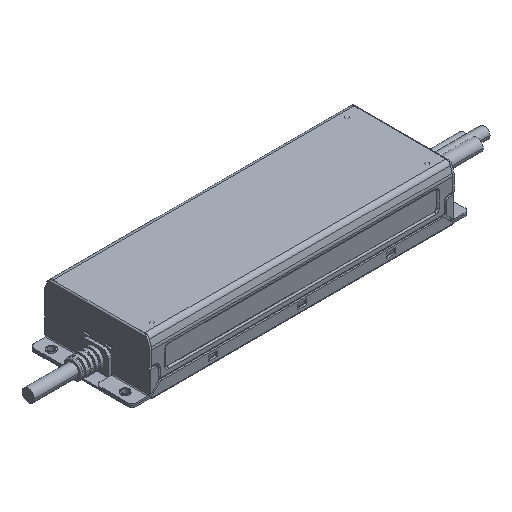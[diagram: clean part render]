
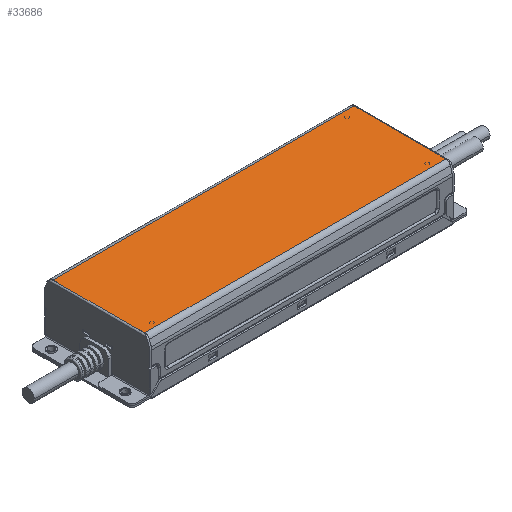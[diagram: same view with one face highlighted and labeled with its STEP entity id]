
A CAD part, isometric view. The second image highlights one B-rep face of the part: STEP entity #33686.
In plain terms, the highlighted planar face has unit normal (0, 0, 1).
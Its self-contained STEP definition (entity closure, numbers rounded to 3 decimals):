
#26218=DIRECTION('',(0.,-1.,0.));
#26219=VECTOR('',#26218,3.477);
#26220=CARTESIAN_POINT('',(212.605,70.775,38.3));
#26221=LINE('',#26220,#26219);
#26226=DIRECTION('',(0.,-1.,0.));
#26227=VECTOR('',#26226,3.477);
#26228=CARTESIAN_POINT('',(212.605,7.298,38.3));
#26229=LINE('',#26228,#26227);
#26425=CARTESIAN_POINT('',(212.805,3.821,38.3));
#26427=DIRECTION('',(0.,1.,0.));
#26428=VECTOR('',#26427,66.955);
#26429=CARTESIAN_POINT('',(212.805,3.821,38.3));
#26430=LINE('',#26429,#26428);
#26439=DIRECTION('',(1.,0.,0.));
#26440=VECTOR('',#26439,0.2);
#26441=CARTESIAN_POINT('',(212.605,3.821,38.3));
#26442=LINE('',#26441,#26440);
#26447=DIRECTION('',(0.,1.,0.));
#26448=VECTOR('',#26447,4.577);
#26449=CARTESIAN_POINT('',(-6.895,3.821,38.3));
#26450=LINE('',#26449,#26448);
#26451=DIRECTION('',(-1.,0.,0.));
#26452=VECTOR('',#26451,0.1);
#26453=CARTESIAN_POINT('',(-6.895,8.398,38.3));
#26454=LINE('',#26453,#26452);
#26455=DIRECTION('',(1.,0.,0.));
#26456=VECTOR('',#26455,0.1);
#26457=CARTESIAN_POINT('',(-6.995,67.298,38.3));
#26458=LINE('',#26457,#26456);
#26459=DIRECTION('',(0.,1.,0.));
#26460=VECTOR('',#26459,3.477);
#26461=CARTESIAN_POINT('',(-6.895,67.298,38.3));
#26462=LINE('',#26461,#26460);
#26463=DIRECTION('',(0.,-1.,0.));
#26464=VECTOR('',#26463,3.477);
#26465=CARTESIAN_POINT('',(212.505,70.775,38.3));
#26466=LINE('',#26465,#26464);
#26467=DIRECTION('',(1.,0.,0.));
#26468=VECTOR('',#26467,0.1);
#26469=CARTESIAN_POINT('',(212.505,67.298,38.3));
#26470=LINE('',#26469,#26468);
#26471=DIRECTION('',(-1.,0.,0.));
#26472=VECTOR('',#26471,0.1);
#26473=CARTESIAN_POINT('',(212.605,7.298,38.3));
#26474=LINE('',#26473,#26472);
#26475=DIRECTION('',(0.,-1.,0.));
#26476=VECTOR('',#26475,3.477);
#26477=CARTESIAN_POINT('',(212.505,7.298,38.3));
#26478=LINE('',#26477,#26476);
#26479=DIRECTION('',(1.,0.,0.));
#26480=VECTOR('',#26479,219.4);
#26481=CARTESIAN_POINT('',(-6.895,3.821,38.3));
#26482=LINE('',#26481,#26480);
#26542=DIRECTION('',(0.,1.,0.));
#26543=VECTOR('',#26542,4.577);
#26544=CARTESIAN_POINT('',(-6.995,3.821,38.3));
#26545=LINE('',#26544,#26543);
#26550=DIRECTION('',(0.,1.,0.));
#26551=VECTOR('',#26550,3.477);
#26552=CARTESIAN_POINT('',(-6.995,67.298,38.3));
#26553=LINE('',#26552,#26551);
#26727=DIRECTION('',(0.,-1.,0.));
#26728=VECTOR('',#26727,66.955);
#26729=CARTESIAN_POINT('',(-7.195,70.775,38.3));
#26730=LINE('',#26729,#26728);
#26739=DIRECTION('',(-1.,0.,0.));
#26740=VECTOR('',#26739,0.2);
#26741=CARTESIAN_POINT('',(-6.995,70.775,38.3));
#26742=LINE('',#26741,#26740);
#27042=DIRECTION('',(1.,0.,0.));
#27043=VECTOR('',#27042,0.2);
#27044=CARTESIAN_POINT('',(-7.195,3.821,38.3));
#27045=LINE('',#27044,#27043);
#27639=DIRECTION('',(-1.,0.,0.));
#27640=VECTOR('',#27639,219.4);
#27641=CARTESIAN_POINT('',(212.505,70.775,38.3));
#27642=LINE('',#27641,#27640);
#29307=DIRECTION('',(-1.,0.,0.));
#29308=VECTOR('',#29307,0.2);
#29309=CARTESIAN_POINT('',(212.805,70.775,38.3));
#29310=LINE('',#29309,#29308);
#31057=CARTESIAN_POINT('',(212.505,3.821,38.3));
#31058=VERTEX_POINT('',#31057);
#31059=CARTESIAN_POINT('',(212.505,7.298,38.3));
#31060=VERTEX_POINT('',#31059);
#31211=CARTESIAN_POINT('',(-6.895,3.821,38.3));
#31213=VERTEX_POINT('',#31211);
#31457=CARTESIAN_POINT('',(212.605,7.298,38.3));
#31458=VERTEX_POINT('',#31457);
#31495=CARTESIAN_POINT('',(212.605,70.775,38.3));
#31496=VERTEX_POINT('',#31495);
#31497=CARTESIAN_POINT('',(212.605,67.298,38.3));
#31498=VERTEX_POINT('',#31497);
#31499=CARTESIAN_POINT('',(212.605,3.821,38.3));
#31500=VERTEX_POINT('',#31499);
#31673=VERTEX_POINT('',#26425);
#31674=CARTESIAN_POINT('',(212.805,70.775,38.3));
#31675=VERTEX_POINT('',#31674);
#31676=CARTESIAN_POINT('',(-7.195,3.821,38.3));
#31677=CARTESIAN_POINT('',(-6.995,3.821,38.3));
#31678=VERTEX_POINT('',#31676);
#31679=VERTEX_POINT('',#31677);
#31680=CARTESIAN_POINT('',(-7.195,70.775,38.3));
#31681=VERTEX_POINT('',#31680);
#31682=CARTESIAN_POINT('',(-6.995,70.775,38.3));
#31683=VERTEX_POINT('',#31682);
#31684=CARTESIAN_POINT('',(-6.995,67.298,38.3));
#31685=VERTEX_POINT('',#31684);
#31686=CARTESIAN_POINT('',(-6.895,67.298,38.3));
#31687=VERTEX_POINT('',#31686);
#31688=CARTESIAN_POINT('',(-6.895,70.775,38.3));
#31689=VERTEX_POINT('',#31688);
#31690=CARTESIAN_POINT('',(212.505,70.775,38.3));
#31691=VERTEX_POINT('',#31690);
#31692=CARTESIAN_POINT('',(212.505,67.298,38.3));
#31693=VERTEX_POINT('',#31692);
#32558=CARTESIAN_POINT('',(-6.895,8.398,38.3));
#32560=VERTEX_POINT('',#32558);
#32572=CARTESIAN_POINT('',(-6.995,8.398,38.3));
#32573=VERTEX_POINT('',#32572);
#33646=CARTESIAN_POINT('',(-30.415,65.298,38.3));
#33647=DIRECTION('',(0.,0.,-1.));
#33648=DIRECTION('',(0.,-1.,0.));
#33649=AXIS2_PLACEMENT_3D('',#33646,#33647,#33648);
#33650=PLANE('',#33649);
#33652=ORIENTED_EDGE('',*,*,#33651,.F.);
#33653=ORIENTED_EDGE('',*,*,#33019,.T.);
#33655=ORIENTED_EDGE('',*,*,#33654,.T.);
#33657=ORIENTED_EDGE('',*,*,#33656,.F.);
#33659=ORIENTED_EDGE('',*,*,#33658,.F.);
#33661=ORIENTED_EDGE('',*,*,#33660,.F.);
#33663=ORIENTED_EDGE('',*,*,#33662,.F.);
#33665=ORIENTED_EDGE('',*,*,#33664,.F.);
#33667=ORIENTED_EDGE('',*,*,#33666,.T.);
#33669=ORIENTED_EDGE('',*,*,#33668,.T.);
#33671=ORIENTED_EDGE('',*,*,#33670,.F.);
#33673=ORIENTED_EDGE('',*,*,#33672,.T.);
#33675=ORIENTED_EDGE('',*,*,#33674,.T.);
#33676=ORIENTED_EDGE('',*,*,#33426,.F.);
#33678=ORIENTED_EDGE('',*,*,#33677,.F.);
#33679=ORIENTED_EDGE('',*,*,#33624,.F.);
#33680=ORIENTED_EDGE('',*,*,#33637,.F.);
#33681=ORIENTED_EDGE('',*,*,#33432,.F.);
#33682=ORIENTED_EDGE('',*,*,#33380,.T.);
#33683=ORIENTED_EDGE('',*,*,#32615,.T.);
#33684=EDGE_LOOP('',(#33652,#33653,#33655,#33657,#33659,#33661,#33663,#33665,
#33667,#33669,#33671,#33673,#33675,#33676,#33678,#33679,#33680,#33681,#33682,
#33683));
#33685=FACE_OUTER_BOUND('',#33684,.F.);
#32615=EDGE_CURVE('',#31060,#31058,#26478,.T.);
#33019=EDGE_CURVE('',#31213,#32560,#26450,.T.);
#33380=EDGE_CURVE('',#31458,#31060,#26474,.T.);
#33426=EDGE_CURVE('',#31496,#31498,#26221,.T.);
#33432=EDGE_CURVE('',#31458,#31500,#26229,.T.);
#33624=EDGE_CURVE('',#31673,#31675,#26430,.T.);
#33637=EDGE_CURVE('',#31500,#31673,#26442,.T.);
#33651=EDGE_CURVE('',#31213,#31058,#26482,.T.);
#33654=EDGE_CURVE('',#32560,#32573,#26454,.T.);
#33656=EDGE_CURVE('',#31679,#32573,#26545,.T.);
#33658=EDGE_CURVE('',#31678,#31679,#27045,.T.);
#33660=EDGE_CURVE('',#31681,#31678,#26730,.T.);
#33662=EDGE_CURVE('',#31683,#31681,#26742,.T.);
#33664=EDGE_CURVE('',#31685,#31683,#26553,.T.);
#33666=EDGE_CURVE('',#31685,#31687,#26458,.T.);
#33668=EDGE_CURVE('',#31687,#31689,#26462,.T.);
#33670=EDGE_CURVE('',#31691,#31689,#27642,.T.);
#33672=EDGE_CURVE('',#31691,#31693,#26466,.T.);
#33674=EDGE_CURVE('',#31693,#31498,#26470,.T.);
#33677=EDGE_CURVE('',#31675,#31496,#29310,.T.);
#33686=ADVANCED_FACE('',(#33685),#33650,.F.);
